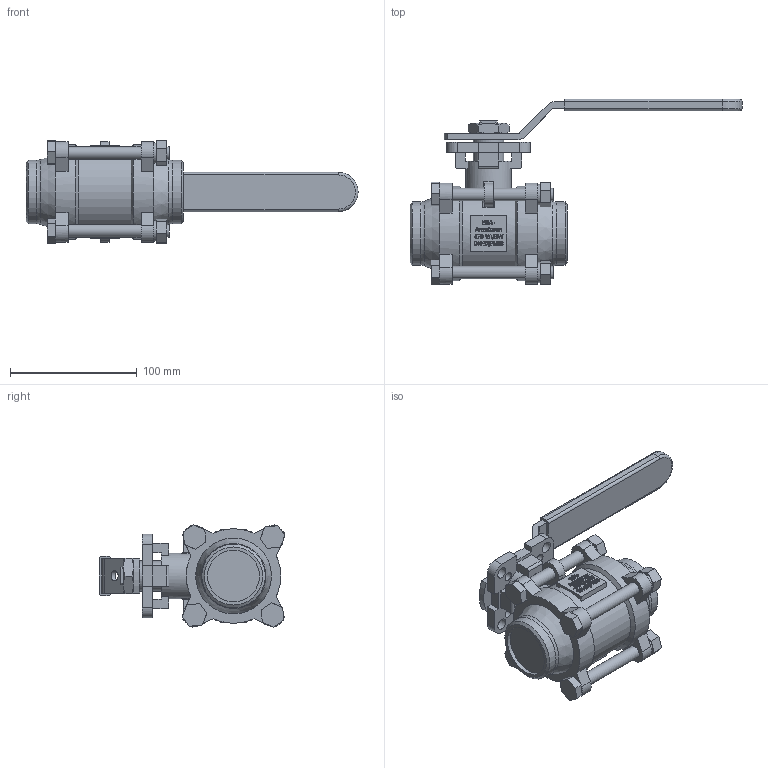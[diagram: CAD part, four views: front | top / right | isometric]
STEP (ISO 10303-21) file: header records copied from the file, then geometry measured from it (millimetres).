
FILE_DESCRIPTION((''),'2;1');
FILE_NAME('K:\Inventor\1 Artikel\11) Muffen-Kugelhähne\11a) manuell\Econosto\470-VABW, 7644ISO\470-VABW, DN40\470-VABW, DN40, 3D\470-VABW, DN40, PN68, HH, 3D.stp','2019-10-23T11:08:40',('claudia'),(''),'Autodesk Inventor 2013','Autodesk Inventor 2013','');
FILE_SCHEMA(('AUTOMOTIVE_DESIGN { 1 0 10303 214 1 1 1 1 }'));
Length unit declared in the file: millimetre
Products named in the file (1): Bauteil12
Bounding box: 262 x 146.64 x 81.07 mm (x, y, z)
Volume: 512535.3 mm3; surface area: 103387.5 mm2
Topology: 1 solids, 3 shells, 1467 faces, 3927 edges, 2597 vertices
Faces by surface type: plane 890, bspline 475, cylinder 74, cone 18, torus 10
Full cylindrical faces by diameter (mm): 7 x4, 8 x2, 9 x4, 10 x8, 10.5 x2, 16 x4, 24 x1, 36 x1, 40 x1, 41 x2, 50.2 x2, 59.809 x2, 68 x1, 74.6 x2
Entity records: 49313 total; most frequent: CARTESIAN_POINT 15936, ORIENTED_EDGE 7740, DIRECTION 5105, EDGE_CURVE 3870, VECTOR 2649, LINE 2649, VERTEX_POINT 2585, EDGE_LOOP 1685
